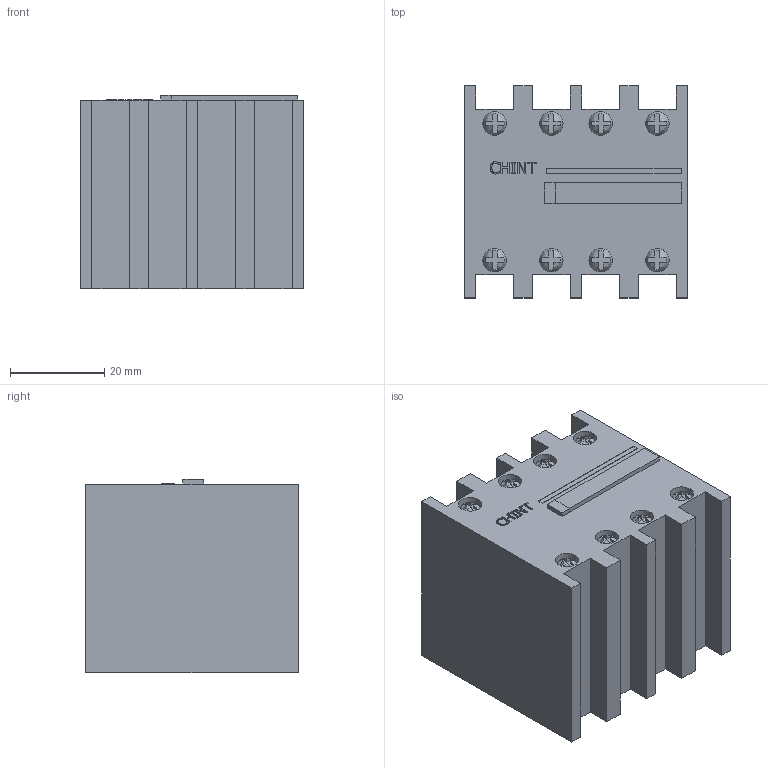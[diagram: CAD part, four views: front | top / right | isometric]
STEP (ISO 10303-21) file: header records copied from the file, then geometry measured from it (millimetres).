
FILE_DESCRIPTION(/* description */ (''),/* implementation_level */ '2;1');
FILE_NAME(/* name */ 'D:\CHINT2\NR2\Вспомогательный контакт F4-40.stp',/* time_stamp */ '2017-11-15T20:27:59+03:00',/* author */ ('RSagdiev'),/* organization */ (''),/* preprocessor_version */ 'ST-DEVELOPER v16.5',/* originating_system */ 'Autodesk Inventor 2017',/* authorisation */ '');
FILE_SCHEMA (('AUTOMOTIVE_DESIGN { 1 0 10303 214 3 1 1 }'));
Length unit declared in the file: millimetre
Products named in the file (1): \X2\04120441043F043E043C043E0433043004420435043B044C043D
044B0439\X0\ контакт F4-40
Bounding box: 47.5 x 45 x 41 mm (x, y, z)
Volume: 72671.8 mm3; surface area: 15281.4 mm2
Topology: 11 solids, 11 shells, 226 faces, 585 edges, 402 vertices
Faces by surface type: plane 194, bspline 24, cylinder 8
Full cylindrical faces by diameter (mm): 5 x8
Entity records: 7605 total; most frequent: CARTESIAN_POINT 2262, ORIENTED_EDGE 1140, DIRECTION 951, EDGE_CURVE 570, LINE 401, VECTOR 401, VERTEX_POINT 388, AXIS2_PLACEMENT_3D 275
